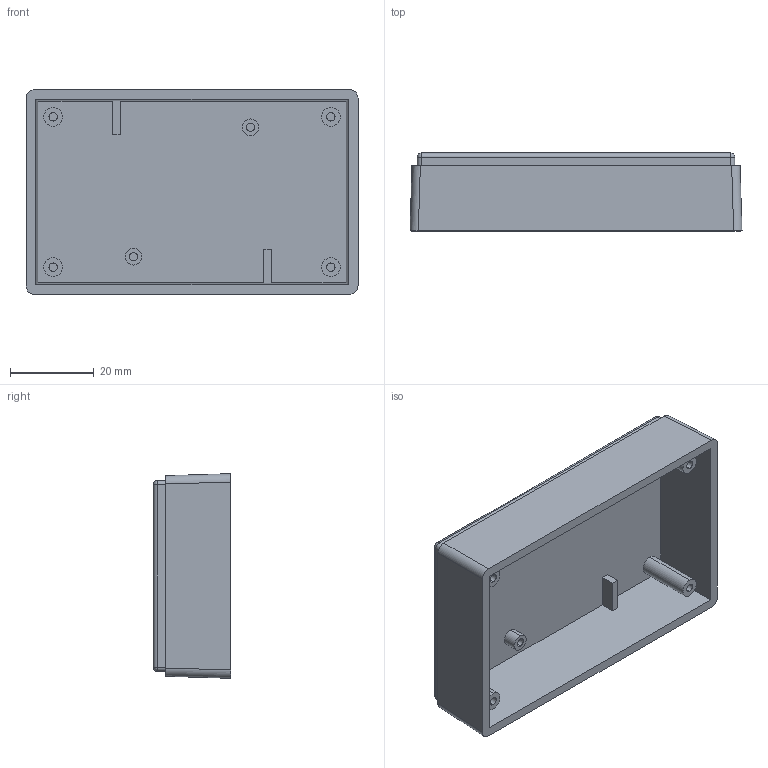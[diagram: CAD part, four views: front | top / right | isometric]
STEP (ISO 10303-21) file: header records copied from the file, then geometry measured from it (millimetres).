
FILE_DESCRIPTION (( 'STEP AP214' ), '1' );
FILE_NAME ('Tapa PP113.STEP', '2017-11-10T11:52:22', ( 'aaa' ), ( '' ), 'SwSTEP 2.0', 'SolidWorks 2013', '' );
FILE_SCHEMA (( 'AUTOMOTIVE_DESIGN' ));
Length unit declared in the file: millimetre
Products named in the file (1): Tapa PP113
Bounding box: 79.5 x 18.6 x 49 mm (x, y, z)
Volume: 17418.5 mm3; surface area: 17315.4 mm2
Topology: 1 solids, 1 shells, 76 faces, 172 edges, 108 vertices
Faces by surface type: cylinder 36, plane 36, sphere 4
Entity records: 2134 total; most frequent: DIRECTION 378, CARTESIAN_POINT 377, ORIENTED_EDGE 336, EDGE_CURVE 168, AXIS2_PLACEMENT_3D 141, VERTEX_POINT 108, LINE 96, VECTOR 96
